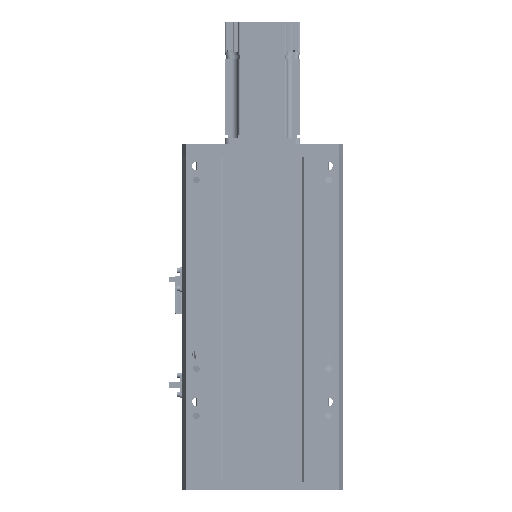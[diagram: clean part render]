
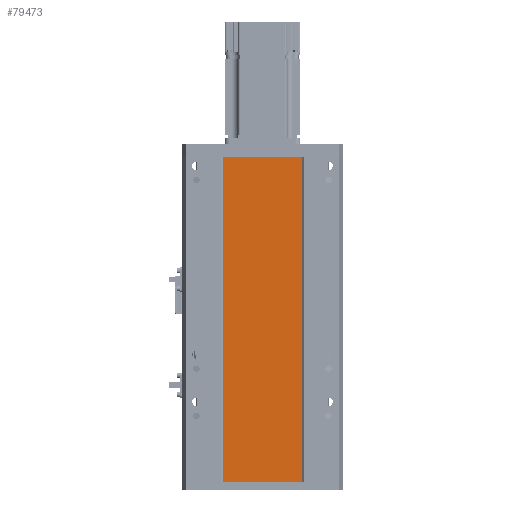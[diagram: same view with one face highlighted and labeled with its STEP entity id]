
A CAD part, front view. The second image highlights one B-rep face of the part: STEP entity #79473.
In plain terms, the highlighted planar face has unit normal (0, -1, 0).
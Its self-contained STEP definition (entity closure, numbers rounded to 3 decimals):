
#2040 = CARTESIAN_POINT ( 'NONE',  ( -42., 0., 0. ) ) ;
#3047 = CARTESIAN_POINT ( 'NONE',  ( 42., 0., -345. ) ) ;
#4140 = VECTOR ( 'NONE', #63924, 1000. ) ;
#4175 = LINE ( 'NONE', #91701, #9010 ) ;
#4489 = CARTESIAN_POINT ( 'NONE',  ( -42., 0., 0. ) ) ;
#5809 = LINE ( 'NONE', #2040, #84418 ) ;
#6068 = VERTEX_POINT ( 'NONE', #71303 ) ;
#7941 = VECTOR ( 'NONE', #25014, 1000. ) ;
#9010 = VECTOR ( 'NONE', #84056, 1000. ) ;
#9013 = ORIENTED_EDGE ( 'NONE', *, *, #9868, .F. ) ;
#9868 = EDGE_CURVE ( 'NONE', #88409, #67332, #5809, .T. ) ;
#21619 = EDGE_CURVE ( 'NONE', #6068, #88409, #66212, .T. ) ;
#24584 = ORIENTED_EDGE ( 'NONE', *, *, #49743, .T. ) ;
#25014 = DIRECTION ( 'NONE',  ( 0., 0., 1. ) ) ;
#25957 = EDGE_CURVE ( 'NONE', #74444, #67332, #47029, .T. ) ;
#28732 = ORIENTED_EDGE ( 'NONE', *, *, #25957, .T. ) ;
#30898 = FACE_OUTER_BOUND ( 'NONE', #86266, .T. ) ;
#42720 = ORIENTED_EDGE ( 'NONE', *, *, #21619, .F. ) ;
#47029 = LINE ( 'NONE', #3047, #4140 ) ;
#47166 = DIRECTION ( 'NONE',  ( 0., 0., -1. ) ) ;
#47605 = DIRECTION ( 'NONE',  ( 1., 0., 0. ) ) ;
#47716 = CARTESIAN_POINT ( 'NONE',  ( 42., 0., -345. ) ) ;
#47951 = CARTESIAN_POINT ( 'NONE',  ( -42., 0., -345. ) ) ;
#49743 = EDGE_CURVE ( 'NONE', #6068, #74444, #4175, .T. ) ;
#63924 = DIRECTION ( 'NONE',  ( 0., 0., 1. ) ) ;
#65848 = AXIS2_PLACEMENT_3D ( 'NONE', #85129, #92791, #47166 ) ;
#66212 = LINE ( 'NONE', #47951, #7941 ) ;
#67332 = VERTEX_POINT ( 'NONE', #90702 ) ;
#71303 = CARTESIAN_POINT ( 'NONE',  ( -42., 0., -345. ) ) ;
#74444 = VERTEX_POINT ( 'NONE', #47716 ) ;
#77463 = PLANE ( 'NONE',  #65848 ) ;
#79473 = ADVANCED_FACE ( 'NONE', ( #30898 ), #77463, .T. ) ;
#84056 = DIRECTION ( 'NONE',  ( 1., 0., 0. ) ) ;
#84418 = VECTOR ( 'NONE', #47605, 1000. ) ;
#85129 = CARTESIAN_POINT ( 'NONE',  ( -42., 0., -345. ) ) ;
#86266 = EDGE_LOOP ( 'NONE', ( #9013, #42720, #24584, #28732 ) ) ;
#88409 = VERTEX_POINT ( 'NONE', #4489 ) ;
#90702 = CARTESIAN_POINT ( 'NONE',  ( 42., 0., 0. ) ) ;
#91701 = CARTESIAN_POINT ( 'NONE',  ( -42., 0., -345. ) ) ;
#92791 = DIRECTION ( 'NONE',  ( 0., -1., 0. ) ) ;
